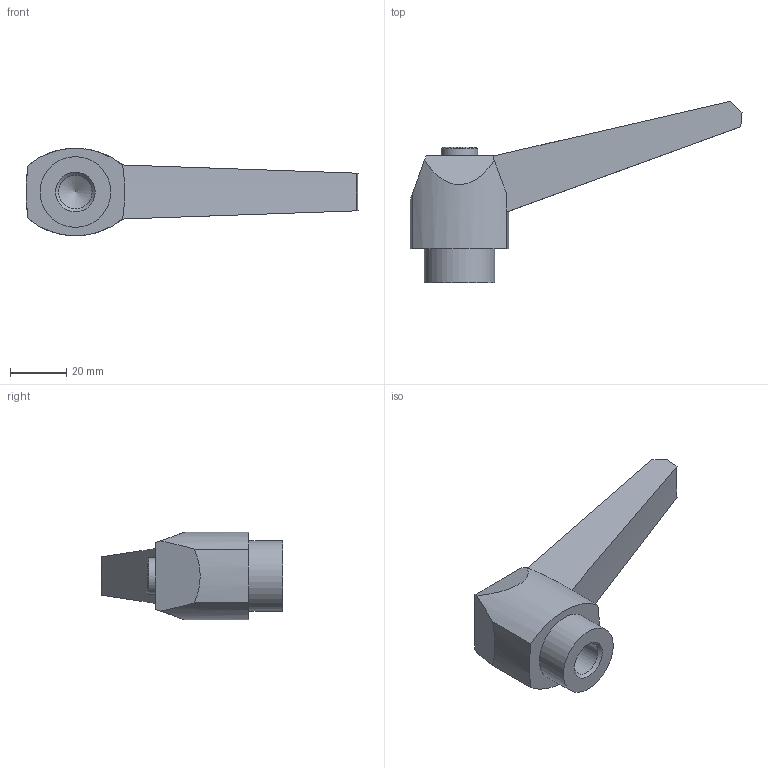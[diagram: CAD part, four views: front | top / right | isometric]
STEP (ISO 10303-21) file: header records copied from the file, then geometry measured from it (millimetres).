
FILE_DESCRIPTION( ( 'STEP AP203' ), '1' );
FILE_NAME( 'C:/Temp/Ganter_Step_05_03_2020/data/2_1/gn_500/gn_500_mb/Adjustable hand lever GN 500-100-M14-SW.stp', '2020-03-05T11:26:30', ( 'License CC BY-ND 4.0' ), ( 'CADENAS' ), ' ', 'PARTsolutions', ' ' );
FILE_SCHEMA( ( 'CONFIG_CONTROL_DESIGN' ) );
Length unit declared in the file: millimetre
Products named in the file (1): _Adjustable hand lever GN 500-100-M14-SW
Bounding box: 117.62 x 64.28 x 31 mm (x, y, z)
Volume: 53733.7 mm3; surface area: 12237.8 mm2
Topology: 1 solids, 1 shells, 24 faces, 58 edges, 38 vertices
Faces by surface type: plane 10, cone 7, cylinder 7
Full cylindrical faces by diameter (mm): 11.835 x1, 13 x1, 25 x1
Entity records: 713 total; most frequent: CARTESIAN_POINT 125, DIRECTION 118, ORIENTED_EDGE 100, EDGE_CURVE 50, AXIS2_PLACEMENT_3D 47, VERTEX_POINT 37, EDGE_LOOP 32, FACE_OUTER_BOUND 27
